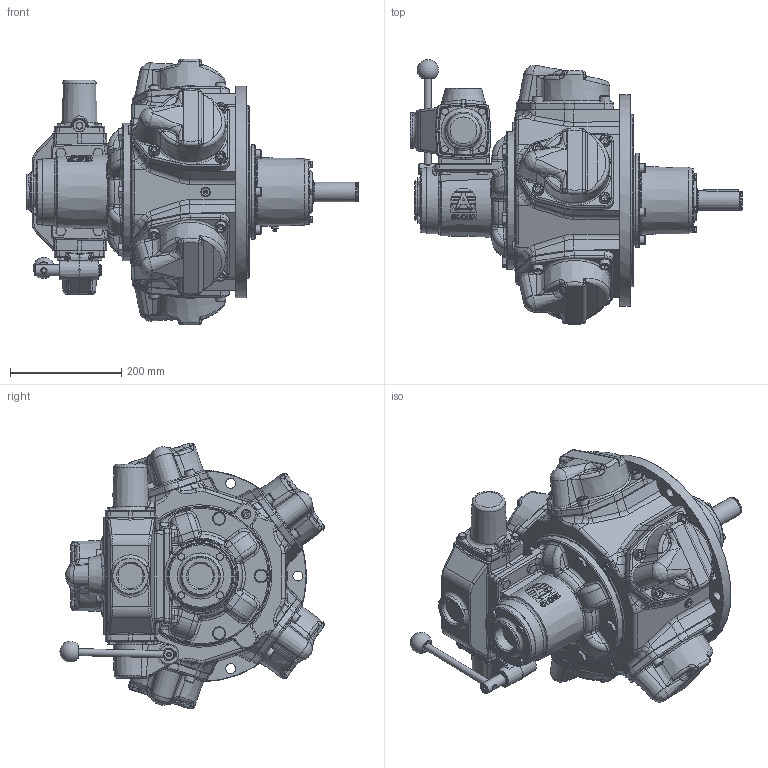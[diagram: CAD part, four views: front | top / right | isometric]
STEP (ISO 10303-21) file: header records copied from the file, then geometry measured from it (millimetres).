
FILE_DESCRIPTION (( 'STEP AP214' ), '1' );
FILE_NAME ('RM510+HCV510 Defeature + Logo.STEP', '2023-05-17T13:59:42', ( '' ), ( '' ), 'SwSTEP 2.0', 'SolidWorks 2022', '' );
FILE_SCHEMA (( 'AUTOMOTIVE_DESIGN' ));
Length unit declared in the file: millimetre
Products named in the file (1): RM510+HCV510 Defeature + Logo
Bounding box: 596.31 x 475.55 x 477.62 mm (x, y, z)
Volume: 31608885.9 mm3; surface area: 951418.3 mm2
Topology: 1 solids, 2 shells, 3243 faces, 7949 edges, 4781 vertices
Faces by surface type: plane 1371, bspline 585, cylinder 571, cone 539, torus 148, sphere 29
Full cylindrical faces by diameter (mm): 2 x4, 2.5 x2, 3 x1, 3.2 x1, 6.8 x1, 8 x1, 10 x7, 11.445 x4, 11.9 x12, 12.7 x1, 13 x1, 16 x15, 17 x14, 18 x25, 20 x22, 21 x5, 21.5 x3, 22 x1, 24 x5, 35.01 x1, 44.845 x2, 45.25 x1, 48 x1, 51.398 x1, 62 x1, 64 x1, 125 x1, 165.045 x1, 169 x1, 248 x1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
Entity records: 170741 total; most frequent: CARTESIAN_POINT 66079, ORIENTED_EDGE 14926, DIRECTION 13159, EDGE_CURVE 7463, AXIS2_PLACEMENT_3D 5129, VERTEX_POINT 4628, EDGE_LOOP 3719, FACE_OUTER_BOUND 3401
